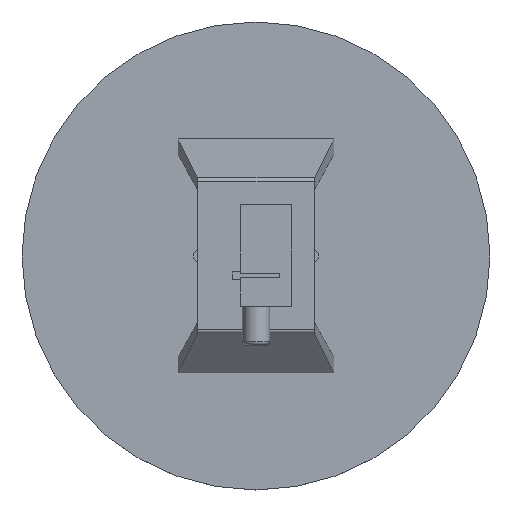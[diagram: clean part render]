
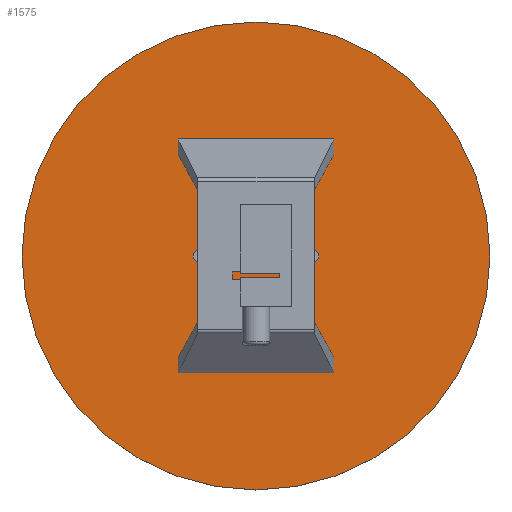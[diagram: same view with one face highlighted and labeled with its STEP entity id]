
A CAD part, top view. The second image highlights one B-rep face of the part: STEP entity #1575.
In plain terms, the highlighted planar face has unit normal (0, 0, 1).
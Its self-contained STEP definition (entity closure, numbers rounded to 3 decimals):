
#49=FACE_BOUND('',#658,.T.);
#133=PLANE('',#1765);
#269=LINE('',#2557,#429);
#284=LINE('',#2620,#444);
#289=LINE('',#2630,#449);
#293=LINE('',#2642,#453);
#429=VECTOR('',#2103,10.);
#444=VECTOR('',#2170,10.);
#449=VECTOR('',#2177,10.);
#453=VECTOR('',#2193,10.);
#558=FACE_OUTER_BOUND('',#657,.T.);
#657=EDGE_LOOP('',(#1465));
#658=EDGE_LOOP('',(#1466,#1467,#1468,#1469,#1470,#1471,#1472,#1473));
#701=CIRCLE('',#1727,2.);
#717=CIRCLE('',#1754,2.);
#719=CIRCLE('',#1757,3.45);
#721=CIRCLE('',#1761,3.45);
#722=CIRCLE('',#1763,60.);
#830=VERTEX_POINT('',#2554);
#831=VERTEX_POINT('',#2556);
#833=VERTEX_POINT('',#2562);
#852=VERTEX_POINT('',#2617);
#853=VERTEX_POINT('',#2619);
#856=VERTEX_POINT('',#2627);
#857=VERTEX_POINT('',#2629);
#859=VERTEX_POINT('',#2637);
#860=VERTEX_POINT('',#2647);
#1024=EDGE_CURVE('',#831,#830,#269,.T.);
#1028=EDGE_CURVE('',#830,#833,#701,.T.);
#1055=EDGE_CURVE('',#853,#852,#284,.T.);
#1060=EDGE_CURVE('',#857,#856,#289,.T.);
#1062=EDGE_CURVE('',#852,#857,#717,.T.);
#1064=EDGE_CURVE('',#859,#853,#719,.T.);
#1067=EDGE_CURVE('',#833,#859,#293,.T.);
#1069=EDGE_CURVE('',#856,#831,#721,.T.);
#1070=EDGE_CURVE('',#860,#860,#722,.T.);
#1465=ORIENTED_EDGE('',*,*,#1070,.T.);
#1466=ORIENTED_EDGE('',*,*,#1069,.T.);
#1467=ORIENTED_EDGE('',*,*,#1024,.T.);
#1468=ORIENTED_EDGE('',*,*,#1028,.T.);
#1469=ORIENTED_EDGE('',*,*,#1067,.T.);
#1470=ORIENTED_EDGE('',*,*,#1064,.T.);
#1471=ORIENTED_EDGE('',*,*,#1055,.T.);
#1472=ORIENTED_EDGE('',*,*,#1062,.T.);
#1473=ORIENTED_EDGE('',*,*,#1060,.T.);
#1575=ADVANCED_FACE('',(#558,#49),#133,.T.);
#1727=AXIS2_PLACEMENT_3D('',#2564,#2109,#2110);
#1754=AXIS2_PLACEMENT_3D('',#2633,#2181,#2182);
#1757=AXIS2_PLACEMENT_3D('',#2638,#2187,#2188);
#1761=AXIS2_PLACEMENT_3D('',#2645,#2198,#2199);
#1763=AXIS2_PLACEMENT_3D('',#2648,#2202,#2203);
#1765=AXIS2_PLACEMENT_3D('',#2652,#2207,#2208);
#2103=DIRECTION('',(-0.999,0.055,0.));
#2109=DIRECTION('center_axis',(0.,0.,-1.));
#2110=DIRECTION('ref_axis',(-0.055,0.999,0.));
#2170=DIRECTION('',(0.999,-0.055,0.));
#2177=DIRECTION('',(-0.999,-0.055,0.));
#2181=DIRECTION('center_axis',(0.,0.,-1.));
#2182=DIRECTION('ref_axis',(0.055,-0.999,0.));
#2187=DIRECTION('center_axis',(0.,0.,-1.));
#2188=DIRECTION('ref_axis',(0.64,0.768,0.));
#2193=DIRECTION('',(0.999,0.055,0.));
#2198=DIRECTION('center_axis',(0.,0.,-1.));
#2199=DIRECTION('ref_axis',(-0.64,-0.768,0.));
#2202=DIRECTION('center_axis',(0.,0.,1.));
#2203=DIRECTION('ref_axis',(1.,0.,0.));
#2207=DIRECTION('center_axis',(0.,0.,1.));
#2208=DIRECTION('ref_axis',(1.,0.,0.));
#2554=CARTESIAN_POINT('',(-14.159,-1.997,4.));
#2556=CARTESIAN_POINT('',(-2.209,-2.65,4.));
#2557=CARTESIAN_POINT('',(-14.159,-1.997,4.));
#2562=CARTESIAN_POINT('',(-14.159,1.997,4.));
#2564=CARTESIAN_POINT('Origin',(-14.05,0.,4.));
#2617=CARTESIAN_POINT('',(14.159,1.997,4.));
#2619=CARTESIAN_POINT('',(2.209,2.65,4.));
#2620=CARTESIAN_POINT('',(14.159,1.997,4.));
#2627=CARTESIAN_POINT('',(2.209,-2.65,4.));
#2629=CARTESIAN_POINT('',(14.159,-1.997,4.));
#2630=CARTESIAN_POINT('',(2.209,-2.65,4.));
#2633=CARTESIAN_POINT('Origin',(14.05,0.,4.));
#2637=CARTESIAN_POINT('',(-2.209,2.65,4.));
#2638=CARTESIAN_POINT('Origin',(0.,0.,4.));
#2642=CARTESIAN_POINT('',(-2.209,2.65,4.));
#2645=CARTESIAN_POINT('Origin',(0.,0.,4.));
#2647=CARTESIAN_POINT('',(-60.,0.,4.));
#2648=CARTESIAN_POINT('Origin',(0.,0.,4.));
#2652=CARTESIAN_POINT('Origin',(0.,0.,4.));
